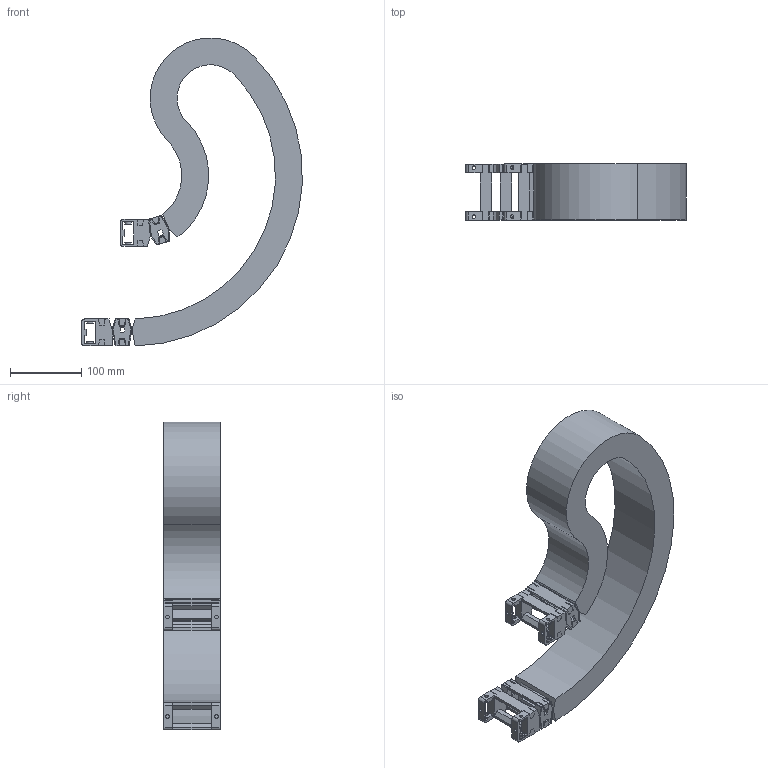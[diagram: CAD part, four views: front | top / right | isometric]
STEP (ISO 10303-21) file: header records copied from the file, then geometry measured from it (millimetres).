
FILE_DESCRIPTION( ( 'STEP AP214' ), '1' );
FILE_NAME( 'e:/temp/worker_67/temp/exporttempdir_5624_516_H4LTu/format_0/RV028CRA79857050170200-00551280.02446.stp', '2021-07-26T13:31:38', ( 'License CC BY-ND 4.0' ), ( 'CADENAS' ), ' ', 'PARTsolutions', ' ' );
FILE_SCHEMA( ( 'AUTOMOTIVE_DESIGN { 1 0 10303 214 1 1 1 1 }' ) );
Length unit declared in the file: millimetre
Products named in the file (5): RV028CRA79857050170200-00551280.02446; _RV028CRA79857050170200-0055793.324-Chain; _RV028CR-SU-28-55; _RV028CR_FB-79; _RV028CR_MB-79
Assembly tree (5 placements, depth 2):
  RV028CRA79857050170200-00551280.02446
    _RV028CRA79857050170200-0055793.324-Chain
    _RV028CR-SU-28-55  x2
    _RV028CR_FB-79
    _RV028CR_MB-79
Bounding box: 310.39 x 79 x 433.46 mm (x, y, z)
Volume: 1423175.1 mm3; surface area: 408924.7 mm2
Topology: 5 solids, 5 shells, 612 faces, 1844 edges, 1204 vertices
Faces by surface type: plane 472, cylinder 140
Full cylindrical faces by diameter (mm): 5 x12
Entity records: 18814 total; most frequent: CARTESIAN_POINT 2676, ORIENTED_EDGE 2672, DIRECTION 2480, EDGE_CURVE 1336, LINE 1112, VECTOR 1112, VERTEX_POINT 880, AXIS2_PLACEMENT_3D 684
